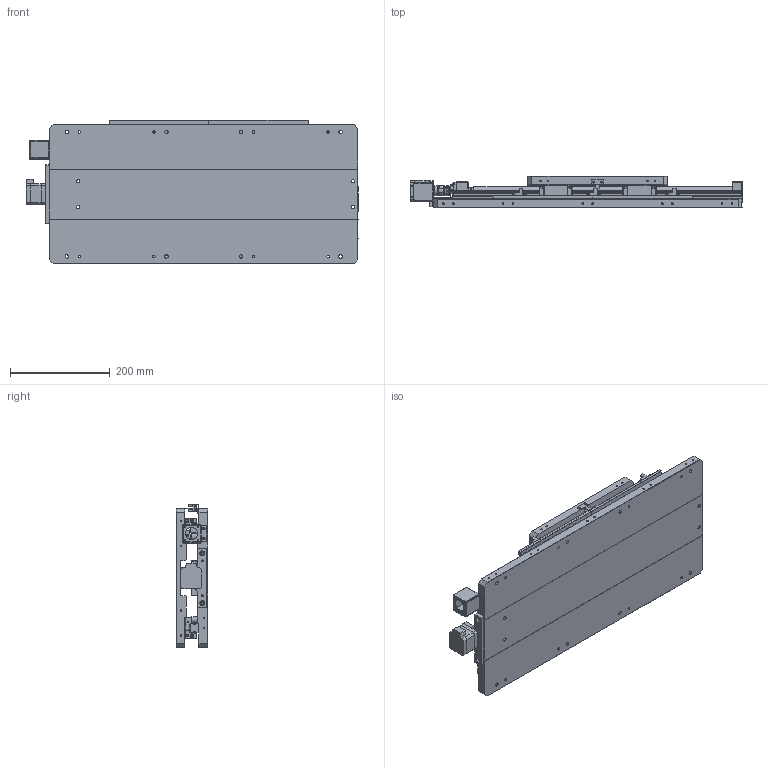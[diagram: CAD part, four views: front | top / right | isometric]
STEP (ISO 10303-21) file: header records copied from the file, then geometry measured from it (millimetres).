
FILE_DESCRIPTION (( 'STEP AP203' ), '1' );
FILE_NAME ('OME-TAB28-XA-3005-P-M42-S001.STEP', '2023-09-19T05:56:41', ( '' ), ( '' ), 'SwSTEP 2.0', 'SolidWorks 2020', '' );
FILE_SCHEMA (( 'CONFIG_CONTROL_DESIGN' ));
Length unit declared in the file: millimetre
Products named in the file (1): OME-TAB28-XA-3005-P-M42-S001
Bounding box: 667 x 63.5 x 289 mm (x, y, z)
Surface area: 731515.2 mm2 (no closed solid volume)
Topology: 0 solids, 76 shells, 898 faces, 4066 edges, 3217 vertices
Faces by surface type: plane 494, cylinder 347, cone 38, bspline 19
Full cylindrical faces by diameter (mm): 1 x4, 2.5 x44, 2.9 x1, 3.3 x54, 3.4 x2, 3.5 x9, 4 x6, 4.5 x1, 5 x37, 5.3 x2, 6 x4, 6.5 x4, 6.8 x4, 7 x12, 8 x4, 9 x4, 9.5 x12, 9.6 x1, 10 x24, 11 x8, 12 x6, 13.05 x1, 13.47 x1, 15 x2, 15.3 x1, 16 x1, 18 x1, 22 x2, 23 x1, 23.5 x1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
Entity records: 44170 total; most frequent: CARTESIAN_POINT 12785, DIRECTION 6296, ORIENTED_EDGE 5105, EDGE_CURVE 3684, VERTEX_POINT 3137, LINE 2304, VECTOR 2304, AXIS2_PLACEMENT_3D 1996
